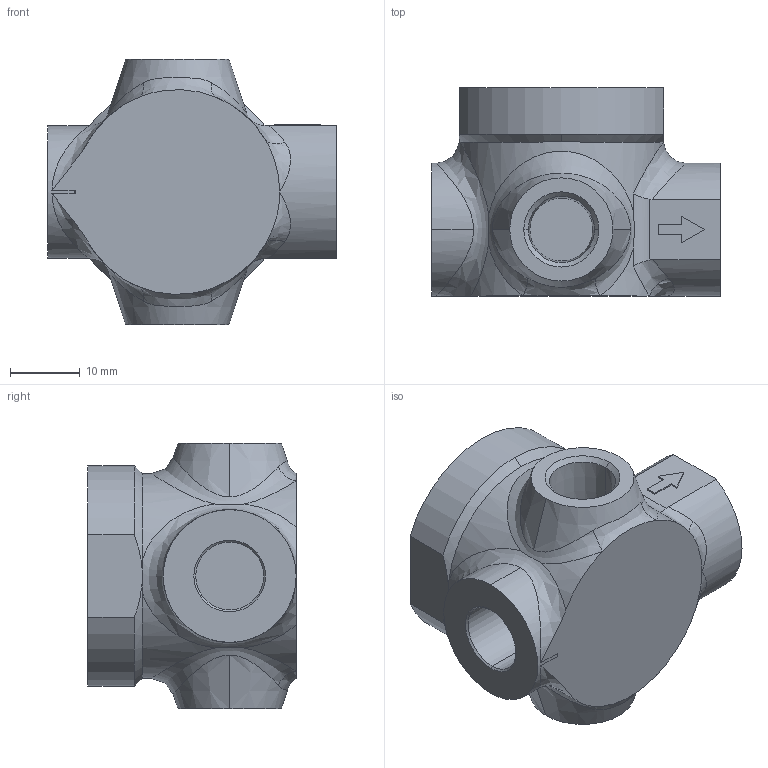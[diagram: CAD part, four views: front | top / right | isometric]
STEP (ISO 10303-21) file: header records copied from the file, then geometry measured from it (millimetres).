
FILE_DESCRIPTION (( 'STEP AP214' ), '1' );
FILE_NAME ('R07-100-RNEA_PART1.step', '2025-12-23T15:58:16', ( '' ), ( '' ), 'SwSTEP 2.0', 'SolidWorks 2026', '' );
FILE_SCHEMA (( 'AUTOMOTIVE_DESIGN' ));
Length unit declared in the file: inch
Products named in the file (1): R07-100-RNEA_PART1
Bounding box: 41.4 x 29.84 x 38.1 mm (x, y, z)
Volume: 25019.5 mm3; surface area: 6465.3 mm2
Topology: 1 solids, 1 shells, 74 faces, 184 edges, 115 vertices
Faces by surface type: plane 24, cylinder 21, cone 19, bspline 10
Entity records: 5672 total; most frequent: CARTESIAN_POINT 4008, ORIENTED_EDGE 364, DIRECTION 304, EDGE_CURVE 182, AXIS2_PLACEMENT_3D 118, VERTEX_POINT 115, EDGE_LOOP 79, FACE_OUTER_BOUND 74
